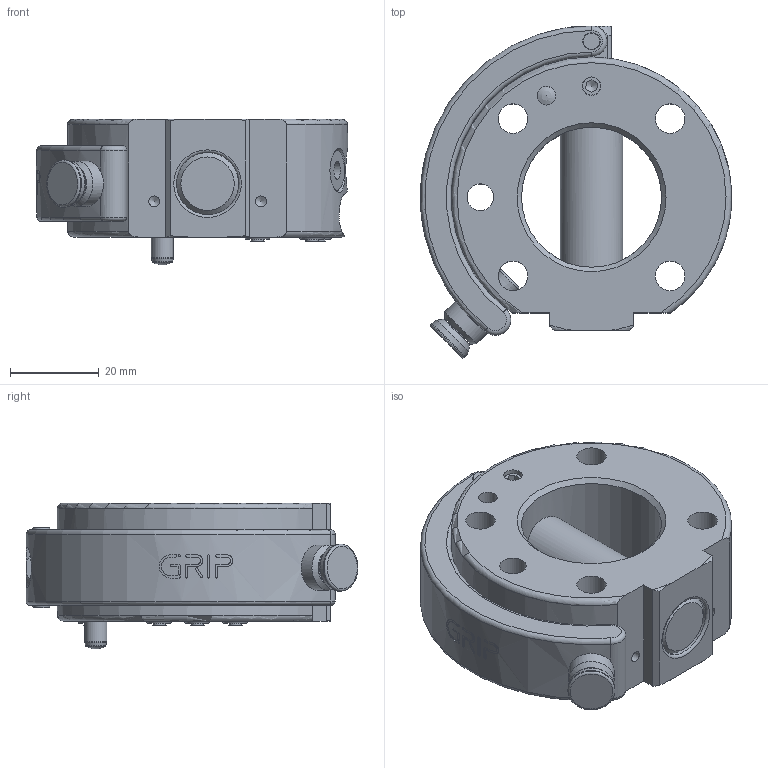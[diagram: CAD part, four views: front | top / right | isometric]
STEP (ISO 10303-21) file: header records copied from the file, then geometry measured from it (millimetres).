
FILE_DESCRIPTION(/* description */ (''),/* implementation_level */ '2;1');
FILE_NAME(/* name */ 'G-HWS063-O-K050_Rev.1.01.stp',/* time_stamp */ '2025-04-01T12:16:28+02:00',/* author */ ('ysplieth'),/* organization */ (''),/* preprocessor_version */ 'ST-DEVELOPER v20',/* originating_system */ 'Autodesk Inventor 2024',/* authorisation */ '');
FILE_SCHEMA (('AUTOMOTIVE_DESIGN { 1 0 10303 214 3 1 1 }'));
Length unit declared in the file: millimetre
Products named in the file (1): Bauteil4
Bounding box: 70 x 74.66 x 32.75 mm (x, y, z)
Volume: 68412.7 mm3; surface area: 22848.4 mm2
Topology: 1 solids, 6 shells, 444 faces, 1169 edges, 777 vertices
Faces by surface type: plane 160, bspline 122, cylinder 96, cone 40, torus 24, sphere 2
Full cylindrical faces by diameter (mm): 0.504 x1, 2.459 x2, 2.8 x4, 3.5 x1, 4 x2, 4.134 x6, 4.2 x1, 4.65 x1, 4.8 x1, 5 x1, 6 x1, 6.5 x9, 6.647 x4, 10.2 x2, 10.6 x1, 11 x3, 14 x2, 31.5 x1
Entity records: 17230 total; most frequent: CARTESIAN_POINT 6727, ORIENTED_EDGE 2320, DIRECTION 1671, EDGE_CURVE 1160, VERTEX_POINT 777, AXIS2_PLACEMENT_3D 577, EDGE_LOOP 529, LINE 517
